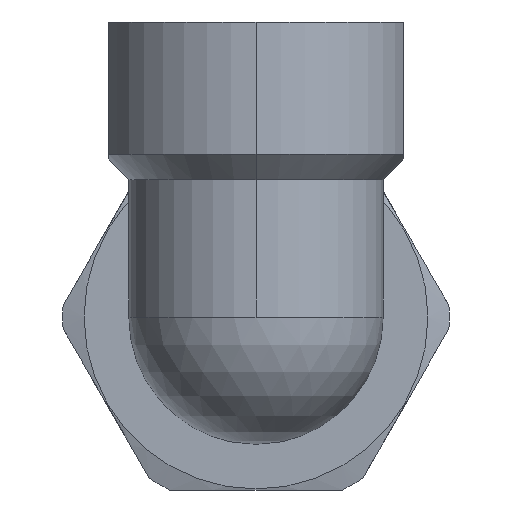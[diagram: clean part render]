
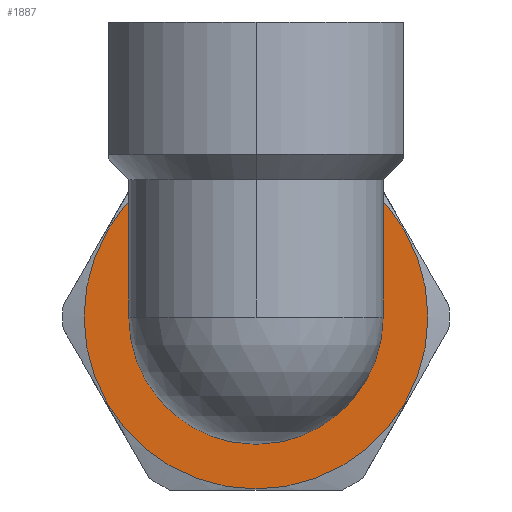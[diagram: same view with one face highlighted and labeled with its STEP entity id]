
A CAD part, left-side view. The second image highlights one B-rep face of the part: STEP entity #1887.
In plain terms, the highlighted planar face has unit normal (-1, 0, 0).
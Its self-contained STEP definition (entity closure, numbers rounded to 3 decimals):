
#1092 = EDGE_CURVE ( 'NONE', #1115, #1165, #2677, .T. ) ;
#1115 = VERTEX_POINT ( 'NONE', #2780 ) ;
#1165 = VERTEX_POINT ( 'NONE', #2825 ) ;
#1286 = DIRECTION ( 'NONE',  ( 0., 0., -1. ) ) ;
#1287 = DIRECTION ( 'NONE',  ( 1., 0., 0. ) ) ;
#1288 = CARTESIAN_POINT ( 'NONE',  ( -15.5, 0., 0. ) ) ;
#1289 = AXIS2_PLACEMENT_3D ( 'NONE', #1288, #1287, #1286 ) ;
#1290 = CIRCLE ( 'NONE', #1289, 16.9 ) ;
#1292 = CARTESIAN_POINT ( 'NONE',  ( -15.5, 0., -16.9 ) ) ;
#1294 = CARTESIAN_POINT ( 'NONE',  ( -15.5, 0., 16.9 ) ) ;
#1793 = EDGE_CURVE ( 'NONE', #2308, #2311, #3209, .T. ) ;
#1853 = EDGE_CURVE ( 'NONE', #1165, #1115, #3291, .T. ) ;
#1866 = ORIENTED_EDGE ( 'NONE', *, *, #1092, .F. ) ;
#1875 = ORIENTED_EDGE ( 'NONE', *, *, #1793, .F. ) ;
#1876 = EDGE_LOOP ( 'NONE', ( #1886, #1866 ) ) ;
#1886 = ORIENTED_EDGE ( 'NONE', *, *, #1853, .F. ) ;
#1887 = ADVANCED_FACE ( 'NONE', ( #3383, #3324 ), #3322, .F. ) ;
#1888 = ORIENTED_EDGE ( 'NONE', *, *, #2313, .F. ) ;
#1893 = EDGE_LOOP ( 'NONE', ( #1888, #1875 ) ) ;
#2308 = VERTEX_POINT ( 'NONE', #1294 ) ;
#2311 = VERTEX_POINT ( 'NONE', #1292 ) ;
#2313 = EDGE_CURVE ( 'NONE', #2311, #2308, #1290, .T. ) ;
#2677 = CIRCLE ( 'NONE', #2714, 12.5 ) ;
#2711 = DIRECTION ( 'NONE',  ( 0., 0., -1. ) ) ;
#2712 = DIRECTION ( 'NONE',  ( -1., 0., 0. ) ) ;
#2713 = CARTESIAN_POINT ( 'NONE',  ( -15.5, 0., 0. ) ) ;
#2714 = AXIS2_PLACEMENT_3D ( 'NONE', #2713, #2712, #2711 ) ;
#2780 = CARTESIAN_POINT ( 'NONE',  ( -15.5, -12.5, 0. ) ) ;
#2825 = CARTESIAN_POINT ( 'NONE',  ( -15.5, 12.5, 0. ) ) ;
#3149 = DIRECTION ( 'NONE',  ( 0., 0., -1. ) ) ;
#3150 = DIRECTION ( 'NONE',  ( 1., 0., 0. ) ) ;
#3207 = CARTESIAN_POINT ( 'NONE',  ( -15.5, 0., 0. ) ) ;
#3208 = AXIS2_PLACEMENT_3D ( 'NONE', #3207, #3150, #3149 ) ;
#3209 = CIRCLE ( 'NONE', #3208, 16.9 ) ;
#3287 = DIRECTION ( 'NONE',  ( 0., 0., -1. ) ) ;
#3288 = DIRECTION ( 'NONE',  ( -1., 0., 0. ) ) ;
#3289 = CARTESIAN_POINT ( 'NONE',  ( -15.5, 0., 0. ) ) ;
#3290 = AXIS2_PLACEMENT_3D ( 'NONE', #3289, #3288, #3287 ) ;
#3291 = CIRCLE ( 'NONE', #3290, 12.5 ) ;
#3319 = DIRECTION ( 'NONE',  ( 1., 0., 0. ) ) ;
#3320 = CARTESIAN_POINT ( 'NONE',  ( -15.5, 0., -41.941 ) ) ;
#3321 = AXIS2_PLACEMENT_3D ( 'NONE', #3320, #3319, #3331 ) ;
#3322 = PLANE ( 'NONE',  #3321 ) ;
#3324 = FACE_BOUND ( 'NONE', #1876, .T. ) ;
#3331 = DIRECTION ( 'NONE',  ( 0., 0., -1. ) ) ;
#3383 = FACE_OUTER_BOUND ( 'NONE', #1893, .T. ) ;
